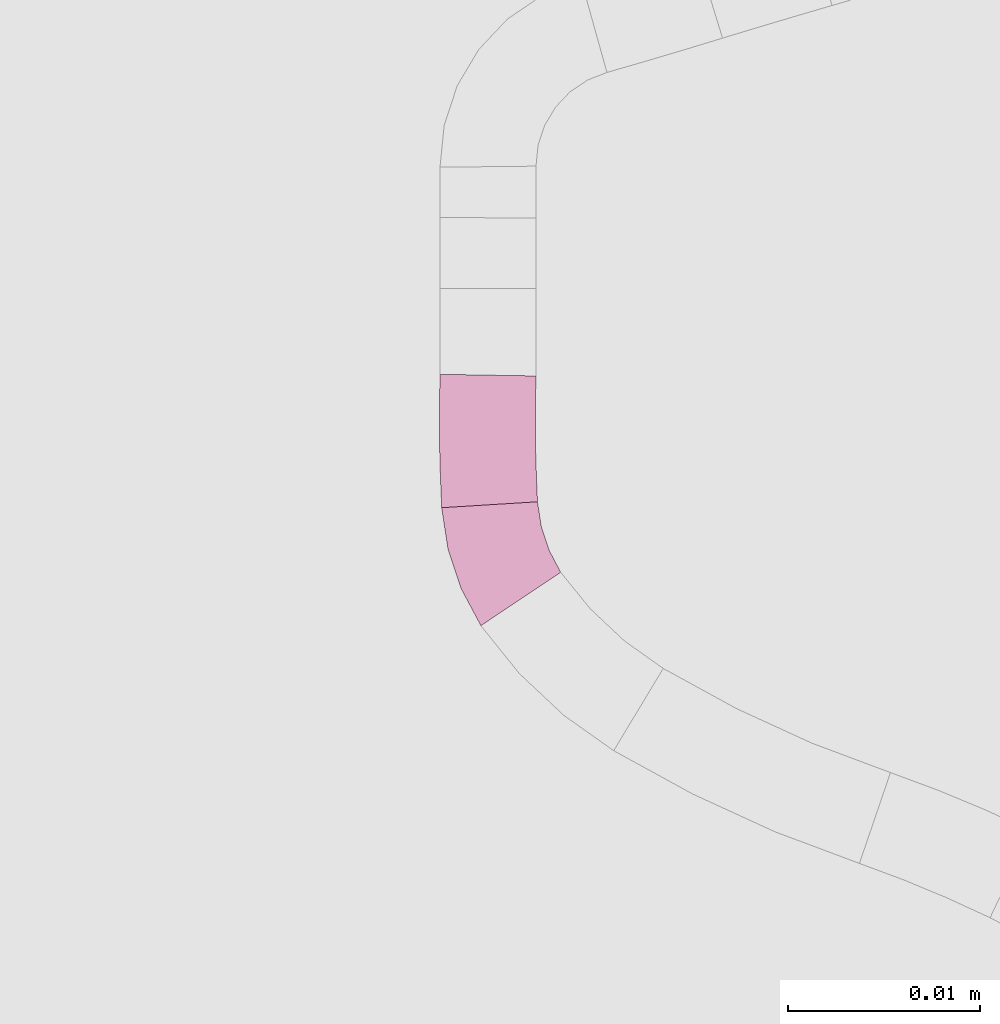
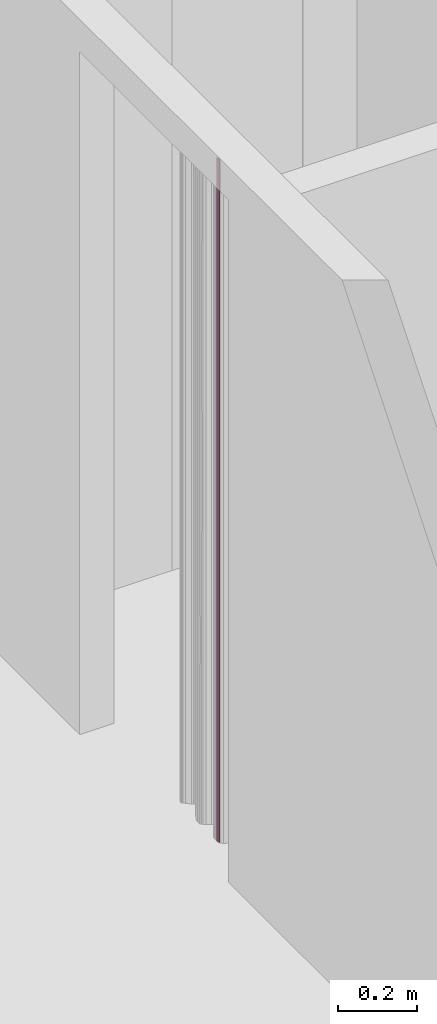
# One storey, part 270 of 418: 2 furnishings.
"""IFC2X3 building model written with IfcOpenShell, lengths in millimetres."""

from ifc_helpers import new_model, entity, si_unit, converted_unit, derived_unit, money_unit, point, direction, frame, frame_2d, origin_with_axes, place, context, subcontext, project, spatial, polyline, circle_curve, parameter, trimmed, segment, composite_curve, outline, extrude, material, type_object, element, save


model = new_model("IFC2X3")

# Units and contexts
model_context = context("Model", 3, precision=0.01, world=origin_with_axes(), true_north=direction((0.0, 1.0)))
body_context = subcontext(model_context, "Body", "Model", "MODEL_VIEW")
ifc_project = project(units=[si_unit("LENGTHUNIT", "METRE", prefix="MILLI"), si_unit("AREAUNIT", "SQUARE_METRE"), si_unit("VOLUMEUNIT", "CUBIC_METRE"), converted_unit("PLANEANGLEUNIT", "DEGREE", entity("IfcPlaneAngleMeasure", 0.0174532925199), si_unit("PLANEANGLEUNIT", "RADIAN"), dimensions=[0, 0, 0, 0, 0, 0, 0]), si_unit("SOLIDANGLEUNIT", "STERADIAN"), money_unit("EUR"), converted_unit("TIMEUNIT", "Year", entity("IfcTimeMeasure", 31556926.0), si_unit("TIMEUNIT", "SECOND"), dimensions=[0, 0, 1, 0, 0, 0, 0]), si_unit("MASSUNIT", "GRAM", prefix="KILO"), si_unit("THERMODYNAMICTEMPERATUREUNIT", "DEGREE_CELSIUS"), si_unit("LUMINOUSINTENSITYUNIT", "LUMEN"), si_unit("ENERGYUNIT", "JOULE", prefix="MEGA"), derived_unit("THERMALCONDUCTANCEUNIT", [(si_unit("POWERUNIT", "WATT"), 1), (si_unit("LENGTHUNIT", "METRE"), -1), (si_unit("THERMODYNAMICTEMPERATUREUNIT", "KELVIN"), -1)]), derived_unit("SPECIFICHEATCAPACITYUNIT", [(si_unit("ENERGYUNIT", "JOULE"), 1), (si_unit("MASSUNIT", "GRAM", prefix="KILO"), -1), (si_unit("THERMODYNAMICTEMPERATUREUNIT", "KELVIN"), -1)]), derived_unit("MASSDENSITYUNIT", [(si_unit("MASSUNIT", "GRAM", prefix="KILO"), 1), (si_unit("VOLUMEUNIT", "CUBIC_METRE"), -1)])], contexts=[model_context])

# Site, building, storey
site_placement = place(None, origin_with_axes())
site = spatial("IfcSite", under=ifc_project, at=site_placement, Name="Paldiski mnt 245/1, Tallinn, Harjumaa", CompositionType="COMPLEX")
building_placement = place(site_placement, origin_with_axes())
building = spatial("IfcBuilding", under=site, at=building_placement, Name="RKAS Hoone üldnimetus (kasutust iseloomustav) -> IFC Project Manager -> SOLIBRI", CompositionType="ELEMENT")
storey_placement = place(building_placement, origin_with_axes())
storey = spatial("IfcBuildingStorey", under=building, at=storey_placement, Name="Esimene korrus", CompositionType="ELEMENT", Elevation=0.0)

# Furnishings
ifc_material = material(Name="KON-00_GENEERILINE - KONSTRUKTSIOON")
furniture_type = type_object("IfcFurnitureType", Name="KON-00_GENEERILINE - KONSTRUKTSIOON 5", AssemblyPlace="NOTDEFINED")
furnishing_1_placement = place(storey_placement, frame((-45056.5905722, -1199.85711842, 0.0), z_axis=(0.0, 0.0, 1.0), x_axis=(0.0681126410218, -0.997677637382, 0.0)))
element("IfcFurnishingElement", 1, at=furnishing_1_placement, inside=storey, type_object=furniture_type, material=ifc_material, Name="SS-14", context=body_context, shape_type="SweptSolid", body=[
    extrude(outline(composite_curve([segment(trimmed(circle_curve(frame_2d((0.0, 12.9445519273), x_axis=(0.0, -1.0)), 12.9445519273), [point((4.80282480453e-10, 0.0)), parameter(0.0)], [point((6.26974702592, 1.61972535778)), parameter(28.9701646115)], True, "CARTESIAN"), True, "CONTINUOUS"), segment(polyline([(6.26974702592, 1.61972535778), (3.7786726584, 5.95616597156)]), True, "CONTINUOUS"), segment(trimmed(circle_curve(frame_2d((0.0, 12.9445519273), x_axis=(0.00417164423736, -0.999991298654)), 7.94455192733), [point((3.7786726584, 5.95616597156)), parameter(28.16140337)], [point((0.0331418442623, 5.00006912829)), parameter(0.0)], False, "CARTESIAN"), True, "CONTINUOUS"), segment(polyline([(0.0331418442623, 5.00006912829), (4.80282480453e-10, 0.0)]), True, "CONTINUOUS")], self_intersect=False)), origin_with_axes(), (0.0, 0.0, 1.0), 2100.0),
])
furnishing_2_placement = place(storey_placement, frame((-45056.6788056, -1192.90949042, 0.0), z_axis=(0.0, 0.0, 1.0), x_axis=(-0.0279257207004, -0.999610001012, 0.0)))
element("IfcFurnishingElement", 2, at=furnishing_2_placement, inside=storey, type_object=furniture_type, material=ifc_material, Name="SS-13", context=body_context, shape_type="SweptSolid", body=[
    extrude(outline(composite_curve([segment(trimmed(circle_curve(frame_2d((0.0, 85.5324110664), x_axis=(0.0, -1.0)), 85.5324110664), [point((0.0, 0.0)), parameter(0.0)], [point((6.94245445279, 0.282216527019)), parameter(4.6556784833)], True, "CARTESIAN"), True, "CONTINUOUS"), segment(polyline([(6.94245445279, 0.282216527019), (6.49570204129, 5.26239744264)]), True, "CONTINUOUS"), segment(trimmed(circle_curve(frame_2d((0.0, 85.5324110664), x_axis=(-0.000686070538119, -0.999999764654)), 80.5324110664), [point((6.49570204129, 5.26239744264)), parameter(4.66578235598)], [point((-0.0552509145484, 5.00001895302)), parameter(0.0)], False, "CARTESIAN"), True, "CONTINUOUS"), segment(polyline([(-0.0552509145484, 5.00001895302), (0.0, 0.0)]), True, "CONTINUOUS")], self_intersect=False)), origin_with_axes(), (0.0, 0.0, 1.0), 2100.0),
])

save(model, "model.ifc")
